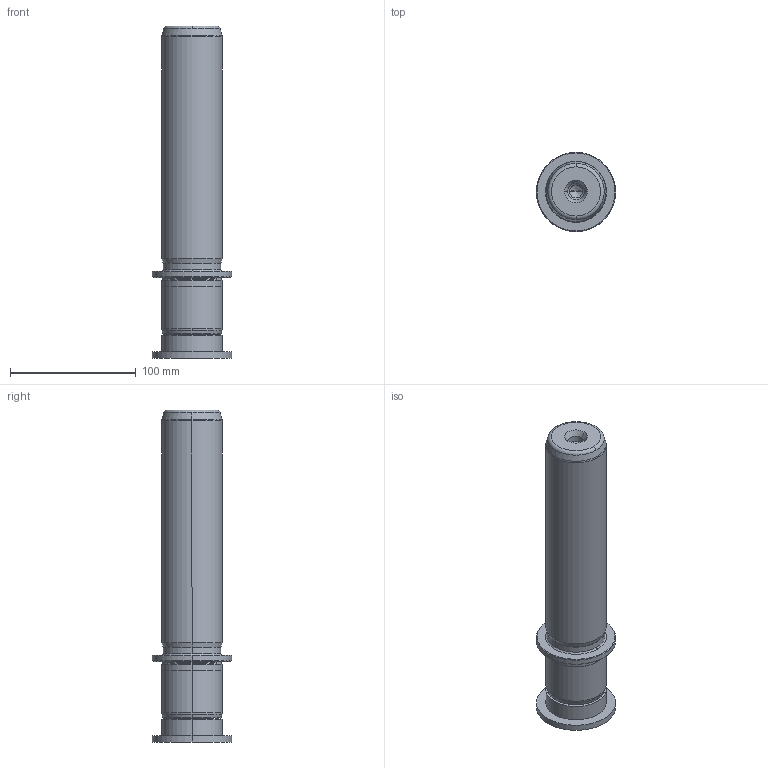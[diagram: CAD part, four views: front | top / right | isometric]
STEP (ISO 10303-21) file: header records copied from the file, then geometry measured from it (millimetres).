
FILE_DESCRIPTION((''),'2;1');
FILE_NAME('P22_048_200.stp','2009-11-02T10:39:00',(''),(''),'Mechanical Desktop 2009','Mechanical Desktop 2009',', , ');
FILE_SCHEMA(('CONFIG_CONTROL_DESIGN'));
Length unit declared in the file: millimetre
Products named in the file (2): Product; blmdl1
Assembly tree (1 placements, depth 2):
  Product
    blmdl1
Bounding box: 63 x 63 x 264 mm (x, y, z)
Volume: 479650.4 mm3; surface area: 57640.1 mm2
Topology: 3 solids, 3 shells, 99 faces, 237 edges, 149 vertices
Faces by surface type: cylinder 32, cone 28, plane 19, torus 10, bspline 10
Entity records: 3419 total; most frequent: CARTESIAN_POINT 923, DIRECTION 570, ORIENTED_EDGE 466, AXIS2_PLACEMENT_3D 246, EDGE_CURVE 233, CIRCLE 155, VERTEX_POINT 149, EDGE_LOOP 110
